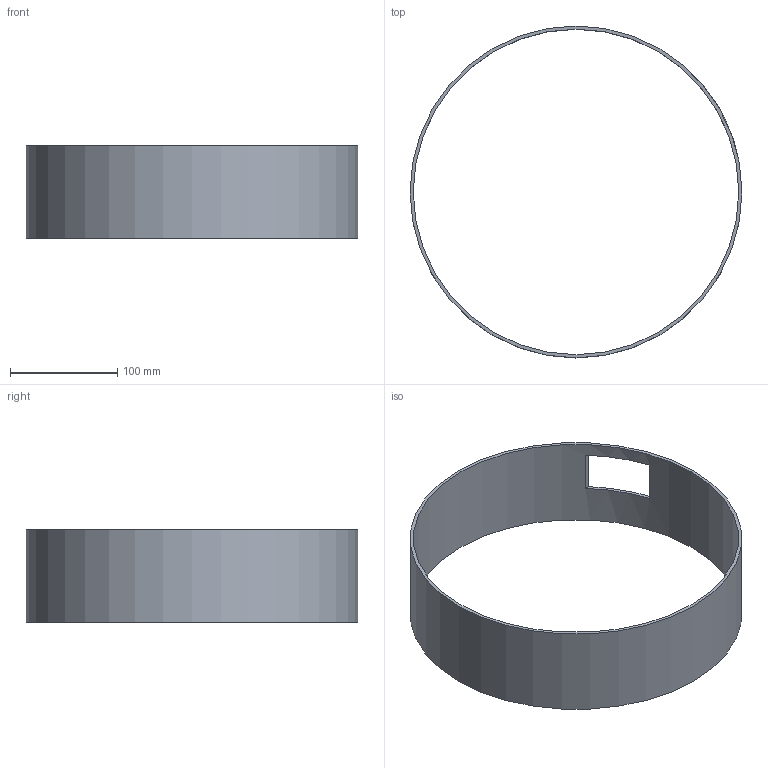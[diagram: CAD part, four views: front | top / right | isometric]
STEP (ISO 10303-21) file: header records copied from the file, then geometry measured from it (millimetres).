
FILE_DESCRIPTION(('Open CASCADE Model'),'2;1');
FILE_NAME('Open CASCADE Shape Model','2026-10-04T01:02:27',('Author'),( 'Open CASCADE'),'Open CASCADE STEP processor 8.0','Open CASCADE 8.0' ,'Unknown');
FILE_SCHEMA(('AUTOMOTIVE_DESIGN { 1 0 10303 214 1 1 1 1 }'));
Length unit declared in the file: millimetre
Products named in the file (1): Open CASCADE STEP translator 8.0 109
Bounding box: 310 x 310 x 86 mm (x, y, z)
Volume: 241711.7 mm3; surface area: 167573.6 mm2
Topology: 1 solids, 1 shells, 8 faces, 18 edges, 12 vertices
Faces by surface type: plane 6, cylinder 2
Full cylindrical faces by diameter (mm): 304 x1, 310 x1
Entity records: 474 total; most frequent: CARTESIAN_POINT 83, DIRECTION 72, ORIENTED_EDGE 36, PCURVE 36, DEFINITIONAL_REPRESENTATION 36, LINE 30, VECTOR 30, EDGE_CURVE 18
